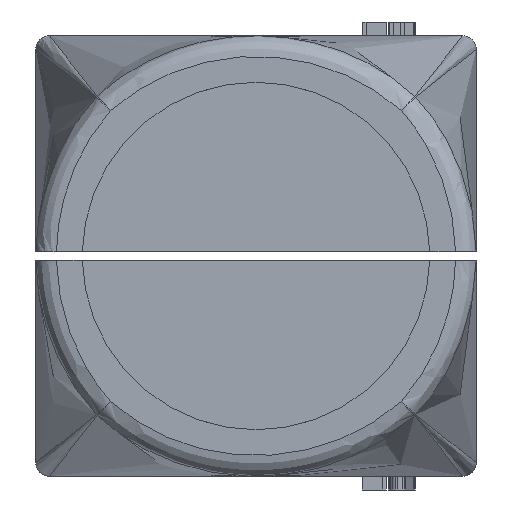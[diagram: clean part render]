
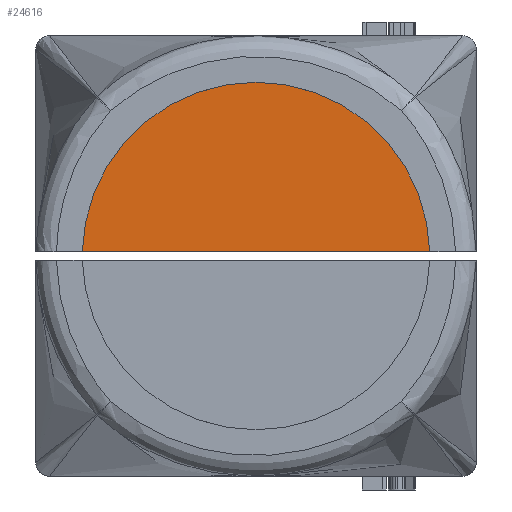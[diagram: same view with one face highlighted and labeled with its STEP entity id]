
A CAD part, left-side view. The second image highlights one B-rep face of the part: STEP entity #24616.
In plain terms, the highlighted planar face has unit normal (-1, 0, 0).
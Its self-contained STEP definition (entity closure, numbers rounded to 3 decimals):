
#106 = CARTESIAN_POINT ( 'NONE',  ( -68., 0., 0. ) ) ;
#293 = VERTEX_POINT ( 'NONE', #20131 ) ;
#440 = ORIENTED_EDGE ( 'NONE', *, *, #12744, .T. ) ;
#2826 = ORIENTED_EDGE ( 'NONE', *, *, #23332, .T. ) ;
#2949 = CARTESIAN_POINT ( 'NONE',  ( -68., 32.006, 0.6 ) ) ;
#3030 = DIRECTION ( 'NONE',  ( -1., 0., 0. ) ) ;
#3565 = CARTESIAN_POINT ( 'NONE',  ( -68., -25.243, 0.6 ) ) ;
#5140 = DIRECTION ( 'NONE',  ( -1., 0., 0. ) ) ;
#6562 = AXIS2_PLACEMENT_3D ( 'NONE', #20326, #9752, #22451 ) ;
#7948 = CARTESIAN_POINT ( 'NONE',  ( -68., 25.243, 0.6 ) ) ;
#8222 = DIRECTION ( 'NONE',  ( 0., 0., 1. ) ) ;
#9735 = ORIENTED_EDGE ( 'NONE', *, *, #15441, .T. ) ;
#9752 = DIRECTION ( 'NONE',  ( -1., 0., 0. ) ) ;
#12744 = EDGE_CURVE ( 'NONE', #28002, #293, #13837, .T. ) ;
#13325 = AXIS2_PLACEMENT_3D ( 'NONE', #28215, #3030, #8222 ) ;
#13837 = CIRCLE ( 'NONE', #13325, 25.25 ) ;
#15441 = EDGE_CURVE ( 'NONE', #293, #28824, #16444, .T. ) ;
#16242 = AXIS2_PLACEMENT_3D ( 'NONE', #106, #5140, #21244 ) ;
#16444 = CIRCLE ( 'NONE', #6562, 25.25 ) ;
#19943 = PLANE ( 'NONE',  #16242 ) ;
#20131 = CARTESIAN_POINT ( 'NONE',  ( -68., 0., 25.25 ) ) ;
#20326 = CARTESIAN_POINT ( 'NONE',  ( -68., 0., 0. ) ) ;
#20427 = VECTOR ( 'NONE', #23104, 1000. ) ;
#21244 = DIRECTION ( 'NONE',  ( 0., 0., 1. ) ) ;
#22390 = FACE_OUTER_BOUND ( 'NONE', #28236, .T. ) ;
#22451 = DIRECTION ( 'NONE',  ( 0., 0., 1. ) ) ;
#22625 = LINE ( 'NONE', #2949, #20427 ) ;
#23104 = DIRECTION ( 'NONE',  ( 0., -1., 0. ) ) ;
#23332 = EDGE_CURVE ( 'NONE', #28824, #28002, #22625, .T. ) ;
#24616 = ADVANCED_FACE ( 'NONE', ( #22390 ), #19943, .T. ) ;
#28002 = VERTEX_POINT ( 'NONE', #3565 ) ;
#28215 = CARTESIAN_POINT ( 'NONE',  ( -68., 0., 0. ) ) ;
#28236 = EDGE_LOOP ( 'NONE', ( #2826, #440, #9735 ) ) ;
#28824 = VERTEX_POINT ( 'NONE', #7948 ) ;
